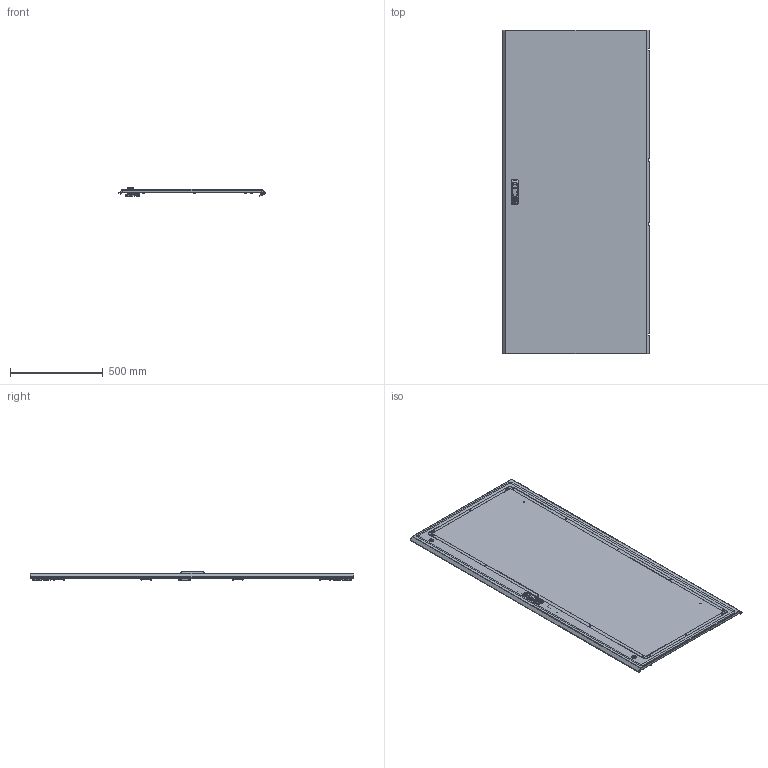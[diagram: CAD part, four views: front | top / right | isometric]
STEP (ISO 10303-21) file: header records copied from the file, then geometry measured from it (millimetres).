
FILE_DESCRIPTION (( 'STEP AP203' ), '1' );
FILE_NAME ('MA1.200.080618.30.00 AleSta-D18M800 Äâåðü ñïëîøíàÿ äëÿ øêàôîâ ALESTA ÂõØ 1800õ800.STEP', '2025-02-19T14:13:59', ( '' ), ( '' ), 'SwSTEP 2.0', 'SolidWorks 2021', '' );
FILE_SCHEMA (( 'CONFIG_CONTROL_DESIGN' ));
Length unit declared in the file: millimetre
Products named in the file (23): Âèíò ñàìîíàðåçàþùèé ñ ïîòàéíîé ãîëîâêîé Ì5x16 DIN 7500 M TORX, êëàññ ïðî÷íîñòè 8.8, îöèíêîâàííàÿ ñòàëü_Œ5å16; MA1.200.060620.31.03 Ðåéêà íà äâåðü ãîðèçîíòàëüíàÿ Ø = 600_˜=800; MA1.200.080618.30.00 AleSta-D18M800 Äâåðü ñïëîøíàÿ äëÿ øêàôîâ ALESTA ÂõØ 1800õ800; êðåïëåíèå_êðóãëîé_òÿãè_RG1020-1.stp; Ãàéêà ñàìîêîíòðÿùàÿñÿ ñ íåéëîíîâîé âñòàâêîé Ì6 DIN 985, êëàññ ïðî÷íîñòè 8, îöèíêîâàííàÿ ñòàëü_Œ5; Øïèëüêà Ì6õ12_˜¯¨«ìª  Œ6å20; 諘蜱齁罻 022 瀁錒瀔隮; Øïèëüêà Ì6õ12_˜¯¨«ìª  Œ6å16; Âèíò_ðåçüáîâûäàâëèâàþùèé_Ì5õ12_DIN 7500E_Œ5å12; MA1.200.060620.31.02 Ðåéêà íà äâåðü âåðòèêàëüíàÿ Â = 2000_‚=1800; Îñü ïåòëè 4õ52_‚¨­â A.M4x0,5x40 ƒŽ‘’ 11644-75; Íàâåñêà íà êîðïóñ ïîä êëåïêó; MS463-2-3(1); MA1.200.060620.31.04 需沐朦_惃％; MA1.200.060620.31.06 赶鎀鍧_100 洵; MA1.200.060620.31.00 Äâåðü ñïëîøíàÿ äëÿ øêàôîâ ALESTA ÂõØ 2000õ600_1800å800; MA1.200.060620.31.01 Ïîëîòíî äâåðè ñïëîøíîé 2000õ600_1800å800; Óïëîòíèòåëü ïàíåëè íèæíåé_ ‚=1800; Áîëò øåñòèãðàííûé Ì5õ12 DIN 933, êëàññ ïðî÷íîñòè 8.8, îöèíêîâàííàÿ ñòàëü; äåðæàòåëü_êðóãëîé_òÿãèRG002-RG1010-2-i-RG1010-3-.stp; MA1.200.060620.31.05 Óãëîâîé óïîð äâåðíîé òÿãè; Ãàéêà ñàìîêîíòðÿùàÿñÿ ñ íåéëîíîâîé âñòàâêîé Ì6 DIN 985, êëàññ ïðî÷íîñòè 8, îöèíêîâàííàÿ ñòàëü_Œ6; òÿãà_lg001-2.STEP_‚ =1800
Assembly tree (84 placements, depth 3):
  MA1.200.080618.30.00 AleSta-D18M800 Äâåðü ñïëîøíàÿ äëÿ øêàôîâ ALESTA ÂõØ 1800õ800
    MA1.200.060620.31.00 Äâåðü ñïëîøíàÿ äëÿ øêàôîâ ALESTA ÂõØ 2000õ600_1800å800
      MA1.200.060620.31.01 Ïîëîòíî äâåðè ñïëîøíîé 2000õ600_1800å800
      Óïëîòíèòåëü ïàíåëè íèæíåé_ ‚=1800
      Øïèëüêà Ì6õ12_˜¯¨«ìª  Œ6å20  x16
      Øïèëüêà Ì6õ12_˜¯¨«ìª  Œ6å16  x4
    MA1.200.060620.31.03 Ðåéêà íà äâåðü ãîðèçîíòàëüíàÿ Ø = 600_˜=800  x2
    諘蜱齁罻 022 瀁錒瀔隮  x4
    MA1.200.060620.31.02 Ðåéêà íà äâåðü âåðòèêàëüíàÿ Â = 2000_‚=1800  x2
    äåðæàòåëü_êðóãëîé_òÿãèRG002-RG1010-2-i-RG1010-3-.stp  x2
    òÿãà_lg001-2.STEP_‚ =1800  x2
    êðåïëåíèå_êðóãëîé_òÿãè_RG1020-1.stp  x2
    MS463-2-3(1)
    Ãàéêà ñàìîêîíòðÿùàÿñÿ ñ íåéëîíîâîé âñòàâêîé Ì6 DIN 985, êëàññ ïðî÷íîñòè 8, îöèíêîâàííàÿ ñòàëü_Œ6  x16
    Ãàéêà ñàìîêîíòðÿùàÿñÿ ñ íåéëîíîâîé âñòàâêîé Ì6 DIN 985, êëàññ ïðî÷íîñòè 8, îöèíêîâàííàÿ ñòàëü_Œ5  x2
    Áîëò øåñòèãðàííûé Ì5õ12 DIN 933, êëàññ ïðî÷íîñòè 8.8, îöèíêîâàííàÿ ñòàëü  x2
    MA1.200.060620.31.05 Óãëîâîé óïîð äâåðíîé òÿãè  x2
    Âèíò_ðåçüáîâûäàâëèâàþùèé_Ì5õ12_DIN 7500E_Œ5å12  x6
    Íàâåñêà íà êîðïóñ ïîä êëåïêó  x4
    Îñü ïåòëè 4õ52_‚¨­â A.M4x0,5x40 ƒŽ‘’ 11644-75  x4
    Âèíò ñàìîíàðåçàþùèé ñ ïîòàéíîé ãîëîâêîé Ì5x16 DIN 7500 M TORX, êëàññ ïðî÷íîñòè 8.8, îöèíêîâàííàÿ ñòàëü_Œ5å16  x8
    MA1.200.060620.31.04 需沐朦_惃％
    MA1.200.060620.31.06 赶鎀鍧_100 洵
Bounding box: 791.81 x 1745 x 52.74 mm (x, y, z)
Volume: 3026759 mm3; surface area: 3716805.5 mm2
Topology: 118 solids, 132 shells, 6101 faces, 15144 edges, 9228 vertices
Faces by surface type: plane 2445, cylinder 2439, bspline 661, cone 261, torus 197, sphere 98
Entity records: 139586 total; most frequent: CARTESIAN_POINT 58828, ORIENTED_EDGE 16314, DIRECTION 15337, EDGE_CURVE 8174, AXIS2_PLACEMENT_3D 5483, VERTEX_POINT 5108, LINE 4371, VECTOR 4371
